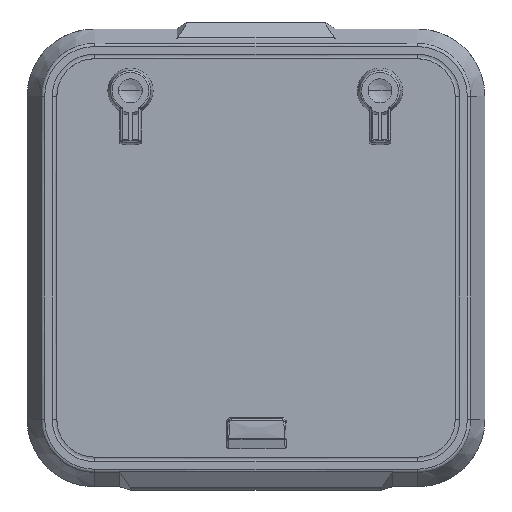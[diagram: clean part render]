
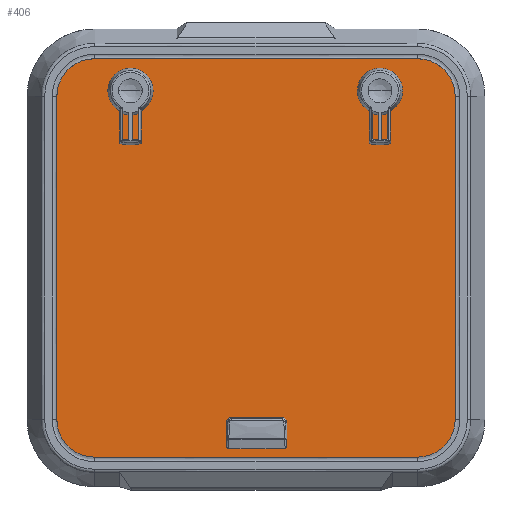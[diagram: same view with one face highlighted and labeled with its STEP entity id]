
A CAD part, front view. The second image highlights one B-rep face of the part: STEP entity #406.
In plain terms, the highlighted planar face has unit normal (0, -1, 0).
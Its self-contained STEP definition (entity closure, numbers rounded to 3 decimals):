
#1=CARTESIAN_POINT('',(81.9,0.,-35.7));
#2=DIRECTION('',(0.,-1.,0.));
#3=DIRECTION('',(1.,0.,0.));
#4=AXIS2_PLACEMENT_3D('',#1,#2,#3);
#6=CARTESIAN_POINT('',(81.9,0.,-35.7));
#7=DIRECTION('',(0.,-1.,0.));
#8=DIRECTION('',(-1.,0.,0.));
#9=AXIS2_PLACEMENT_3D('',#6,#7,#8);
#11=CARTESIAN_POINT('',(97.055,0.,-44.45));
#12=DIRECTION('',(0.,-1.,0.));
#13=DIRECTION('',(1.,0.,0.));
#14=AXIS2_PLACEMENT_3D('',#11,#12,#13);
#16=CARTESIAN_POINT('',(97.055,0.,-44.45));
#17=DIRECTION('',(0.,-1.,0.));
#18=DIRECTION('',(-1.,0.,0.));
#19=AXIS2_PLACEMENT_3D('',#16,#17,#18);
#21=CARTESIAN_POINT('',(359.3,0.,-35.7));
#22=DIRECTION('',(0.,-1.,0.));
#23=DIRECTION('',(1.,0.,0.));
#24=AXIS2_PLACEMENT_3D('',#21,#22,#23);
#26=CARTESIAN_POINT('',(359.3,0.,-35.7));
#27=DIRECTION('',(0.,-1.,0.));
#28=DIRECTION('',(-1.,0.,0.));
#29=AXIS2_PLACEMENT_3D('',#26,#27,#28);
#31=CARTESIAN_POINT('',(344.145,0.,-44.45));
#32=DIRECTION('',(0.,-1.,0.));
#33=DIRECTION('',(1.,0.,0.));
#34=AXIS2_PLACEMENT_3D('',#31,#32,#33);
#36=CARTESIAN_POINT('',(344.145,0.,-44.45));
#37=DIRECTION('',(0.,-1.,0.));
#38=DIRECTION('',(-1.,0.,0.));
#39=AXIS2_PLACEMENT_3D('',#36,#37,#38);
#41=DIRECTION('',(1.,0.,0.));
#42=VECTOR('',#41,359.);
#43=CARTESIAN_POINT('',(42.,0.,0.));
#44=LINE('',#43,#42);
#45=CARTESIAN_POINT('',(401.,0.,-42.));
#46=DIRECTION('',(0.,1.,0.));
#47=DIRECTION('',(0.,0.,1.));
#48=AXIS2_PLACEMENT_3D('',#45,#46,#47);
#50=DIRECTION('',(0.,0.,-1.));
#51=VECTOR('',#50,359.);
#52=CARTESIAN_POINT('',(443.,0.,-42.));
#53=LINE('',#52,#51);
#54=CARTESIAN_POINT('',(401.,0.,-401.));
#55=DIRECTION('',(0.,1.,0.));
#56=DIRECTION('',(1.,0.,0.));
#57=AXIS2_PLACEMENT_3D('',#54,#55,#56);
#59=DIRECTION('',(-1.,0.,0.));
#60=VECTOR('',#59,359.);
#61=CARTESIAN_POINT('',(401.,0.,-443.));
#62=LINE('',#61,#60);
#63=CARTESIAN_POINT('',(42.,0.,-401.));
#64=DIRECTION('',(0.,1.,0.));
#65=DIRECTION('',(0.,0.,-1.));
#66=AXIS2_PLACEMENT_3D('',#63,#64,#65);
#68=DIRECTION('',(0.,0.,1.));
#69=VECTOR('',#68,359.);
#70=CARTESIAN_POINT('',(0.,0.,-401.));
#71=LINE('',#70,#69);
#72=CARTESIAN_POINT('',(42.,0.,-42.));
#73=DIRECTION('',(0.,1.,0.));
#74=DIRECTION('',(-1.,0.,0.));
#75=AXIS2_PLACEMENT_3D('',#72,#73,#74);
#77=CARTESIAN_POINT('',(242.1,0.,-412.));
#78=DIRECTION('',(0.,-1.,0.));
#79=DIRECTION('',(0.,0.,-1.));
#80=AXIS2_PLACEMENT_3D('',#77,#78,#79);
#82=DIRECTION('',(-1.,0.,0.));
#83=VECTOR('',#82,43.);
#84=CARTESIAN_POINT('',(242.1,0.,-406.5));
#85=LINE('',#84,#83);
#86=CARTESIAN_POINT('',(199.1,0.,-412.));
#87=DIRECTION('',(0.,-1.,0.));
#88=DIRECTION('',(0.,0.,1.));
#89=AXIS2_PLACEMENT_3D('',#86,#87,#88);
#91=DIRECTION('',(1.,0.,0.));
#92=VECTOR('',#91,43.);
#93=CARTESIAN_POINT('',(199.1,0.,-417.5));
#94=LINE('',#93,#92);
#269=CARTESIAN_POINT('',(42.,0.,0.));
#270=CARTESIAN_POINT('',(401.,0.,0.));
#271=VERTEX_POINT('',#269);
#272=VERTEX_POINT('',#270);
#273=CARTESIAN_POINT('',(443.,0.,-42.));
#274=VERTEX_POINT('',#273);
#275=CARTESIAN_POINT('',(443.,0.,-401.));
#276=VERTEX_POINT('',#275);
#277=CARTESIAN_POINT('',(401.,0.,-443.));
#278=VERTEX_POINT('',#277);
#279=CARTESIAN_POINT('',(42.,0.,-443.));
#280=VERTEX_POINT('',#279);
#281=CARTESIAN_POINT('',(0.,0.,-401.));
#282=VERTEX_POINT('',#281);
#283=CARTESIAN_POINT('',(0.,0.,-42.));
#284=VERTEX_POINT('',#283);
#285=CARTESIAN_POINT('',(242.1,0.,-417.5));
#286=CARTESIAN_POINT('',(242.1,0.,-406.5));
#287=VERTEX_POINT('',#285);
#288=VERTEX_POINT('',#286);
#289=CARTESIAN_POINT('',(199.1,0.,-406.5));
#290=VERTEX_POINT('',#289);
#291=CARTESIAN_POINT('',(199.1,0.,-417.5));
#292=VERTEX_POINT('',#291);
#317=CARTESIAN_POINT('',(89.4,0.,-35.7));
#318=CARTESIAN_POINT('',(74.4,0.,-35.7));
#319=VERTEX_POINT('',#317);
#320=VERTEX_POINT('',#318);
#321=CARTESIAN_POINT('',(100.393,0.,-44.45));
#322=CARTESIAN_POINT('',(93.718,0.,-44.45));
#323=VERTEX_POINT('',#321);
#324=VERTEX_POINT('',#322);
#333=CARTESIAN_POINT('',(366.8,0.,-35.7));
#334=CARTESIAN_POINT('',(351.8,0.,-35.7));
#335=VERTEX_POINT('',#333);
#336=VERTEX_POINT('',#334);
#337=CARTESIAN_POINT('',(347.482,0.,-44.45));
#338=CARTESIAN_POINT('',(340.807,0.,-44.45));
#339=VERTEX_POINT('',#337);
#340=VERTEX_POINT('',#338);
#349=CARTESIAN_POINT('',(0.,0.,0.));
#350=DIRECTION('',(0.,1.,0.));
#351=DIRECTION('',(1.,0.,0.));
#352=AXIS2_PLACEMENT_3D('',#349,#350,#351);
#353=PLANE('',#352);
#355=ORIENTED_EDGE('',*,*,#354,.T.);
#357=ORIENTED_EDGE('',*,*,#356,.T.);
#359=ORIENTED_EDGE('',*,*,#358,.T.);
#361=ORIENTED_EDGE('',*,*,#360,.T.);
#363=ORIENTED_EDGE('',*,*,#362,.T.);
#365=ORIENTED_EDGE('',*,*,#364,.T.);
#367=ORIENTED_EDGE('',*,*,#366,.T.);
#369=ORIENTED_EDGE('',*,*,#368,.T.);
#370=EDGE_LOOP('',(#355,#357,#359,#361,#363,#365,#367,#369));
#371=FACE_OUTER_BOUND('',#370,.F.);
#373=ORIENTED_EDGE('',*,*,#372,.T.);
#375=ORIENTED_EDGE('',*,*,#374,.T.);
#376=EDGE_LOOP('',(#373,#375));
#377=FACE_BOUND('',#376,.F.);
#379=ORIENTED_EDGE('',*,*,#378,.T.);
#381=ORIENTED_EDGE('',*,*,#380,.T.);
#382=EDGE_LOOP('',(#379,#381));
#383=FACE_BOUND('',#382,.F.);
#385=ORIENTED_EDGE('',*,*,#384,.T.);
#387=ORIENTED_EDGE('',*,*,#386,.T.);
#388=EDGE_LOOP('',(#385,#387));
#389=FACE_BOUND('',#388,.F.);
#391=ORIENTED_EDGE('',*,*,#390,.T.);
#393=ORIENTED_EDGE('',*,*,#392,.T.);
#394=EDGE_LOOP('',(#391,#393));
#395=FACE_BOUND('',#394,.F.);
#397=ORIENTED_EDGE('',*,*,#396,.T.);
#399=ORIENTED_EDGE('',*,*,#398,.T.);
#401=ORIENTED_EDGE('',*,*,#400,.T.);
#403=ORIENTED_EDGE('',*,*,#402,.T.);
#404=EDGE_LOOP('',(#397,#399,#401,#403));
#405=FACE_BOUND('',#404,.F.);
#406=ADVANCED_FACE('',(#371,#377,#383,#389,#395,#405),#353,.F.);
#5=CIRCLE('',#4,7.5);
#10=CIRCLE('',#9,7.5);
#15=CIRCLE('',#14,3.338);
#20=CIRCLE('',#19,3.338);
#25=CIRCLE('',#24,7.5);
#30=CIRCLE('',#29,7.5);
#35=CIRCLE('',#34,3.338);
#40=CIRCLE('',#39,3.338);
#49=CIRCLE('',#48,42.);
#58=CIRCLE('',#57,42.);
#67=CIRCLE('',#66,42.);
#76=CIRCLE('',#75,42.);
#81=CIRCLE('',#80,5.5);
#90=CIRCLE('',#89,5.5);
#354=EDGE_CURVE('',#271,#272,#44,.T.);
#356=EDGE_CURVE('',#272,#274,#49,.T.);
#358=EDGE_CURVE('',#274,#276,#53,.T.);
#360=EDGE_CURVE('',#276,#278,#58,.T.);
#362=EDGE_CURVE('',#278,#280,#62,.T.);
#364=EDGE_CURVE('',#280,#282,#67,.T.);
#366=EDGE_CURVE('',#282,#284,#71,.T.);
#368=EDGE_CURVE('',#284,#271,#76,.T.);
#372=EDGE_CURVE('',#319,#320,#5,.T.);
#374=EDGE_CURVE('',#320,#319,#10,.T.);
#378=EDGE_CURVE('',#323,#324,#15,.T.);
#380=EDGE_CURVE('',#324,#323,#20,.T.);
#384=EDGE_CURVE('',#335,#336,#25,.T.);
#386=EDGE_CURVE('',#336,#335,#30,.T.);
#390=EDGE_CURVE('',#339,#340,#35,.T.);
#392=EDGE_CURVE('',#340,#339,#40,.T.);
#396=EDGE_CURVE('',#287,#288,#81,.T.);
#398=EDGE_CURVE('',#288,#290,#85,.T.);
#400=EDGE_CURVE('',#290,#292,#90,.T.);
#402=EDGE_CURVE('',#292,#287,#94,.T.);
